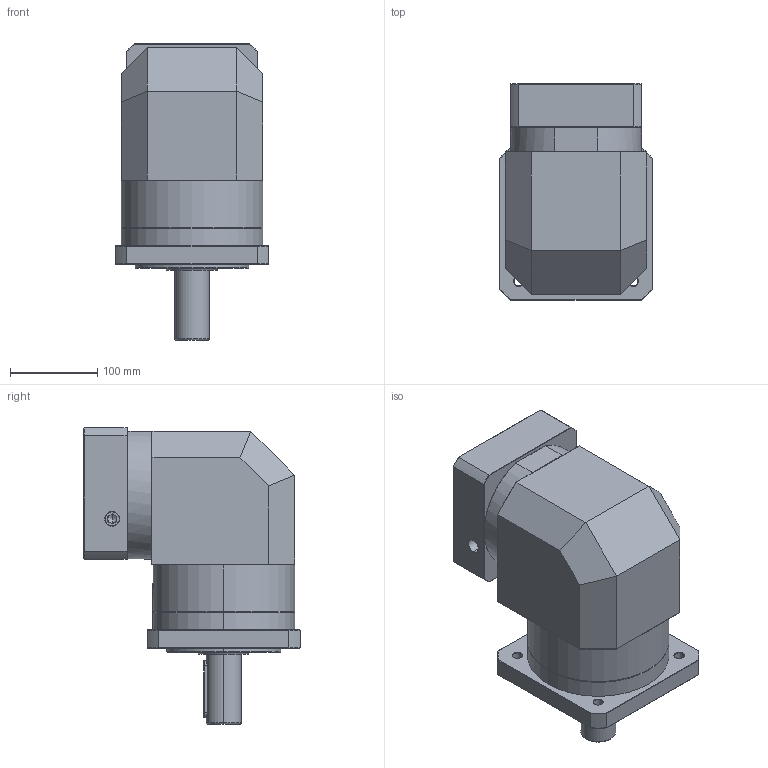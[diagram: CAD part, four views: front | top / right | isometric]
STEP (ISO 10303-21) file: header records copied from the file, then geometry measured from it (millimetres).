
FILE_DESCRIPTION (( 'STEP AP214' ), '1' );
FILE_NAME ('ZFR160A-D40-L1-P2-28-130-174-M10.step', '2023-09-03T08:56:51', ( '' ), ( '' ), 'SwSTEP 2.0', 'SolidWorks 2016', '' );
FILE_SCHEMA (( 'AUTOMOTIVE_DESIGN' ));
Length unit declared in the file: millimetre
Products named in the file (1): ZFR160A-D40-L1-P2-28-130-174-M10
Bounding box: 175 x 247.5 x 338.7 mm (x, y, z)
Volume: 6627409.5 mm3; surface area: 440467.7 mm2
Topology: 6 solids, 6 shells, 2205 faces, 5825 edges, 3727 vertices
Faces by surface type: plane 1048, cylinder 414, bspline 414, cone 307, torus 22
Entity records: 126560 total; most frequent: CARTESIAN_POINT 53138, ORIENTED_EDGE 11590, DIRECTION 8378, EDGE_CURVE 5795, VERTEX_POINT 3727, LINE 3090, VECTOR 3090, AXIS2_PLACEMENT_3D 2644
